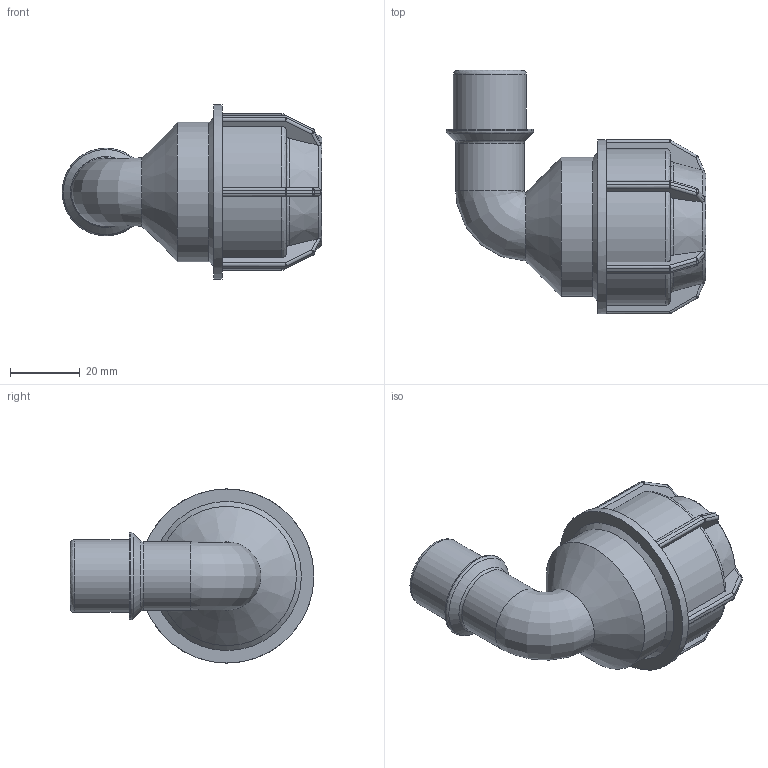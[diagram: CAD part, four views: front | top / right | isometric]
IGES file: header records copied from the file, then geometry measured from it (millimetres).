
Global section: file name: 148500025005.ipt; native system: Autodesk Inventor 2015; preprocessor: unknown; author: KIM; date: 20180409.131243; units: millimetre
Bounding box: 74.57 x 70 x 50 mm (x, y, z)
Volume: 46643.6 mm3; surface area: 19930.3 mm2
Topology: 1 solids, 1 shells, 214 faces, 513 edges, 300 vertices
Faces by surface type: plane 99, cylinder 59, sphere 24, revolution 23, cone 9
Full cylindrical faces by diameter (mm): 19.593 x1, 20.955 x1, 25.146 x1, 40 x1, 50 x1
